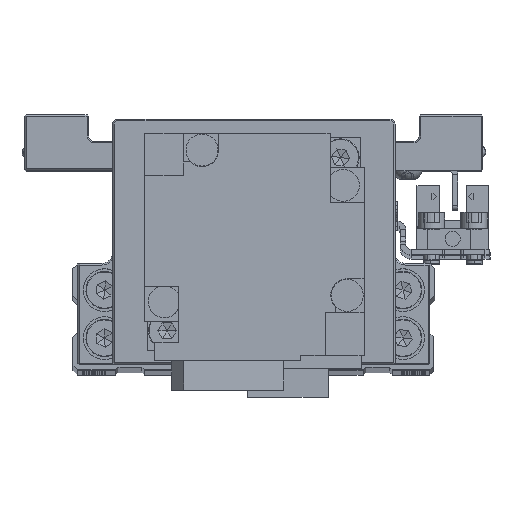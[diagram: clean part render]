
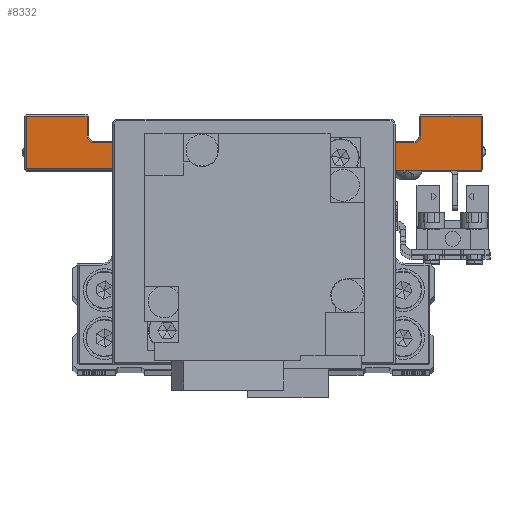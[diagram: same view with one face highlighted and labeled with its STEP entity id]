
A CAD part, top view. The second image highlights one B-rep face of the part: STEP entity #8332.
In plain terms, the highlighted planar face has unit normal (0, 0, 1) as drawn and (1, 0, 0) by its records, which use the part's own axes.
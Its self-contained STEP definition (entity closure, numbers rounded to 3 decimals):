
#716 = LINE ( 'NONE', #11872, #30486 ) ;
#775 = EDGE_CURVE ( 'NONE', #26053, #13497, #34426, .T. ) ;
#895 = LINE ( 'NONE', #12050, #24423 ) ;
#1908 = DIRECTION ( 'NONE',  ( -1., 0., 0. ) ) ;
#2763 = ORIENTED_EDGE ( 'NONE', *, *, #9284, .T. ) ;
#3008 = DIRECTION ( 'NONE',  ( -1., 0., 0. ) ) ;
#3183 = CARTESIAN_POINT ( 'NONE',  ( 45., -8.2, 19.7 ) ) ;
#3313 = VERTEX_POINT ( 'NONE', #3183 ) ;
#3409 = ORIENTED_EDGE ( 'NONE', *, *, #22348, .T. ) ;
#3945 = VECTOR ( 'NONE', #5972, 1000. ) ;
#4218 = VERTEX_POINT ( 'NONE', #14934 ) ;
#4448 = LINE ( 'NONE', #15590, #23141 ) ;
#4871 = LINE ( 'NONE', #16013, #23341 ) ;
#5090 = CARTESIAN_POINT ( 'NONE',  ( 45., 7.5, -42.7 ) ) ;
#5972 = DIRECTION ( 'NONE',  ( 0., 0., -1. ) ) ;
#6096 = CARTESIAN_POINT ( 'NONE',  ( 45., 14., -31.3 ) ) ;
#7656 = VECTOR ( 'NONE', #35337, 1000. ) ;
#7695 = CARTESIAN_POINT ( 'NONE',  ( 45., 7.8, 42.7 ) ) ;
#7822 = VERTEX_POINT ( 'NONE', #18660 ) ;
#7833 = DIRECTION ( 'NONE',  ( -1., 0., 0. ) ) ;
#8235 = CARTESIAN_POINT ( 'NONE',  ( 45., 7.5, -31.3 ) ) ;
#8332 = ADVANCED_FACE ( 'NONE', ( #10576 ), #21719, .F. ) ;
#8875 = ORIENTED_EDGE ( 'NONE', *, *, #20002, .T. ) ;
#9114 = VERTEX_POINT ( 'NONE', #29623 ) ;
#9140 = ORIENTED_EDGE ( 'NONE', *, *, #16291, .T. ) ;
#9274 = LINE ( 'NONE', #20421, #20805 ) ;
#9284 = EDGE_CURVE ( 'NONE', #13497, #21464, #33258, .T. ) ;
#9373 = CARTESIAN_POINT ( 'NONE',  ( 45., 7.5, -42.7 ) ) ;
#9402 = CARTESIAN_POINT ( 'NONE',  ( 45., 17.7, -20. ) ) ;
#10096 = DIRECTION ( 'NONE',  ( 0., 0., 1. ) ) ;
#10230 = ORIENTED_EDGE ( 'NONE', *, *, #10494, .T. ) ;
#10494 = EDGE_CURVE ( 'NONE', #15371, #9114, #23983, .T. ) ;
#10537 = ORIENTED_EDGE ( 'NONE', *, *, #15595, .T. ) ;
#10565 = ORIENTED_EDGE ( 'NONE', *, *, #35952, .T. ) ;
#10576 = FACE_OUTER_BOUND ( 'NONE', #35820, .T. ) ;
#11872 = CARTESIAN_POINT ( 'NONE',  ( 45., 7.5, 31.3 ) ) ;
#12050 = CARTESIAN_POINT ( 'NONE',  ( 45., -8.2, -20. ) ) ;
#12101 = CARTESIAN_POINT ( 'NONE',  ( 45., 7.5, -19.7 ) ) ;
#12687 = CARTESIAN_POINT ( 'NONE',  ( 45., 17.7, 31.3 ) ) ;
#13062 = LINE ( 'NONE', #24206, #7656 ) ;
#13065 = DIRECTION ( 'NONE',  ( 0., 0., 1. ) ) ;
#13497 = VERTEX_POINT ( 'NONE', #21032 ) ;
#13504 = CARTESIAN_POINT ( 'NONE',  ( 45., -8.2, -19.7 ) ) ;
#13549 = LINE ( 'NONE', #21948, #29593 ) ;
#13594 = VERTEX_POINT ( 'NONE', #7695 ) ;
#13838 = VERTEX_POINT ( 'NONE', #12101 ) ;
#14168 = DIRECTION ( 'NONE',  ( 0., 0., 1. ) ) ;
#14802 = AXIS2_PLACEMENT_3D ( 'NONE', #26945, #1908, #13065 ) ;
#14934 = CARTESIAN_POINT ( 'NONE',  ( 45., 12.7, 30. ) ) ;
#15147 = EDGE_CURVE ( 'NONE', #4218, #34003, #32211, .T. ) ;
#15371 = VERTEX_POINT ( 'NONE', #12687 ) ;
#15498 = ORIENTED_EDGE ( 'NONE', *, *, #34481, .T. ) ;
#15590 = CARTESIAN_POINT ( 'NONE',  ( 45., 7.5, 42.7 ) ) ;
#15595 = EDGE_CURVE ( 'NONE', #34003, #15371, #716, .T. ) ;
#16013 = CARTESIAN_POINT ( 'NONE',  ( 45., 7.5, 19.7 ) ) ;
#16234 = DIRECTION ( 'NONE',  ( 0., 1., 0. ) ) ;
#16291 = EDGE_CURVE ( 'NONE', #20799, #3313, #4871, .T. ) ;
#16425 = CARTESIAN_POINT ( 'NONE',  ( 45., 17.7, -42.7 ) ) ;
#16458 = AXIS2_PLACEMENT_3D ( 'NONE', #28053, #3008, #14168 ) ;
#17040 = VERTEX_POINT ( 'NONE', #9373 ) ;
#18660 = CARTESIAN_POINT ( 'NONE',  ( 45., 12.7, -30. ) ) ;
#18695 = EDGE_CURVE ( 'NONE', #7822, #4218, #13062, .T. ) ;
#18968 = DIRECTION ( 'NONE',  ( 0., 0., 1. ) ) ;
#19039 = ORIENTED_EDGE ( 'NONE', *, *, #32050, .T. ) ;
#19157 = VECTOR ( 'NONE', #16234, 1000. ) ;
#19364 = DIRECTION ( 'NONE',  ( 0., -1., 0. ) ) ;
#19862 = LINE ( 'NONE', #31005, #3945 ) ;
#20002 = EDGE_CURVE ( 'NONE', #21464, #7822, #30540, .T. ) ;
#20421 = CARTESIAN_POINT ( 'NONE',  ( 45., 7.5, 43. ) ) ;
#20542 = DIRECTION ( 'NONE',  ( 0., 0., 1. ) ) ;
#20799 = VERTEX_POINT ( 'NONE', #32167 ) ;
#20805 = VECTOR ( 'NONE', #31568, 1000. ) ;
#21032 = CARTESIAN_POINT ( 'NONE',  ( 45., 17.7, -31.3 ) ) ;
#21464 = VERTEX_POINT ( 'NONE', #6096 ) ;
#21719 = PLANE ( 'NONE',  #33800 ) ;
#21948 = CARTESIAN_POINT ( 'NONE',  ( 45., 7.5, -19.7 ) ) ;
#22174 = CARTESIAN_POINT ( 'NONE',  ( 45., 14., 31.3 ) ) ;
#22348 = EDGE_CURVE ( 'NONE', #9114, #13594, #4448, .T. ) ;
#22450 = ORIENTED_EDGE ( 'NONE', *, *, #775, .T. ) ;
#23014 = DIRECTION ( 'NONE',  ( 0., 1., 0. ) ) ;
#23141 = VECTOR ( 'NONE', #26727, 1000. ) ;
#23185 = DIRECTION ( 'NONE',  ( 0., 0., -1. ) ) ;
#23341 = VECTOR ( 'NONE', #27154, 1000. ) ;
#23425 = ORIENTED_EDGE ( 'NONE', *, *, #35053, .T. ) ;
#23983 = LINE ( 'NONE', #35115, #31669 ) ;
#24206 = CARTESIAN_POINT ( 'NONE',  ( 45., 12.7, 30. ) ) ;
#24354 = VECTOR ( 'NONE', #20542, 1000. ) ;
#24423 = VECTOR ( 'NONE', #23185, 1000. ) ;
#24654 = EDGE_CURVE ( 'NONE', #17040, #26053, #30122, .T. ) ;
#24674 = VERTEX_POINT ( 'NONE', #13504 ) ;
#26053 = VERTEX_POINT ( 'NONE', #16425 ) ;
#26727 = DIRECTION ( 'NONE',  ( 0., -1., 0. ) ) ;
#26945 = CARTESIAN_POINT ( 'NONE',  ( 45., 14., -30. ) ) ;
#27154 = DIRECTION ( 'NONE',  ( 0., -1., 0. ) ) ;
#27938 = VECTOR ( 'NONE', #19364, 1000. ) ;
#28053 = CARTESIAN_POINT ( 'NONE',  ( 45., 14., 30. ) ) ;
#29593 = VECTOR ( 'NONE', #33086, 1000. ) ;
#29623 = CARTESIAN_POINT ( 'NONE',  ( 45., 17.7, 42.7 ) ) ;
#30122 = LINE ( 'NONE', #5090, #19157 ) ;
#30486 = VECTOR ( 'NONE', #23014, 1000. ) ;
#30488 = ORIENTED_EDGE ( 'NONE', *, *, #18695, .T. ) ;
#30540 = CIRCLE ( 'NONE', #14802, 1.3 ) ;
#31005 = CARTESIAN_POINT ( 'NONE',  ( 45., 7.8, 20. ) ) ;
#31568 = DIRECTION ( 'NONE',  ( 0., 0., -1. ) ) ;
#31669 = VECTOR ( 'NONE', #10096, 1000. ) ;
#32050 = EDGE_CURVE ( 'NONE', #13838, #17040, #9274, .T. ) ;
#32167 = CARTESIAN_POINT ( 'NONE',  ( 45., 7.8, 19.7 ) ) ;
#32211 = CIRCLE ( 'NONE', #16458, 1.3 ) ;
#32856 = CARTESIAN_POINT ( 'NONE',  ( 45., 7.5, -20. ) ) ;
#33086 = DIRECTION ( 'NONE',  ( 0., 1., 0. ) ) ;
#33258 = LINE ( 'NONE', #8235, #27938 ) ;
#33800 = AXIS2_PLACEMENT_3D ( 'NONE', #32856, #7833, #18968 ) ;
#33881 = ORIENTED_EDGE ( 'NONE', *, *, #24654, .T. ) ;
#34003 = VERTEX_POINT ( 'NONE', #22174 ) ;
#34426 = LINE ( 'NONE', #9402, #24354 ) ;
#34481 = EDGE_CURVE ( 'NONE', #24674, #13838, #13549, .T. ) ;
#35053 = EDGE_CURVE ( 'NONE', #13594, #20799, #19862, .T. ) ;
#35115 = CARTESIAN_POINT ( 'NONE',  ( 45., 17.7, -20. ) ) ;
#35304 = ORIENTED_EDGE ( 'NONE', *, *, #15147, .T. ) ;
#35337 = DIRECTION ( 'NONE',  ( 0., 0., 1. ) ) ;
#35820 = EDGE_LOOP ( 'NONE', ( #15498, #19039, #33881, #22450, #2763, #8875, #30488, #35304, #10537, #10230, #3409, #23425, #9140, #10565 ) ) ;
#35952 = EDGE_CURVE ( 'NONE', #3313, #24674, #895, .T. ) ;
